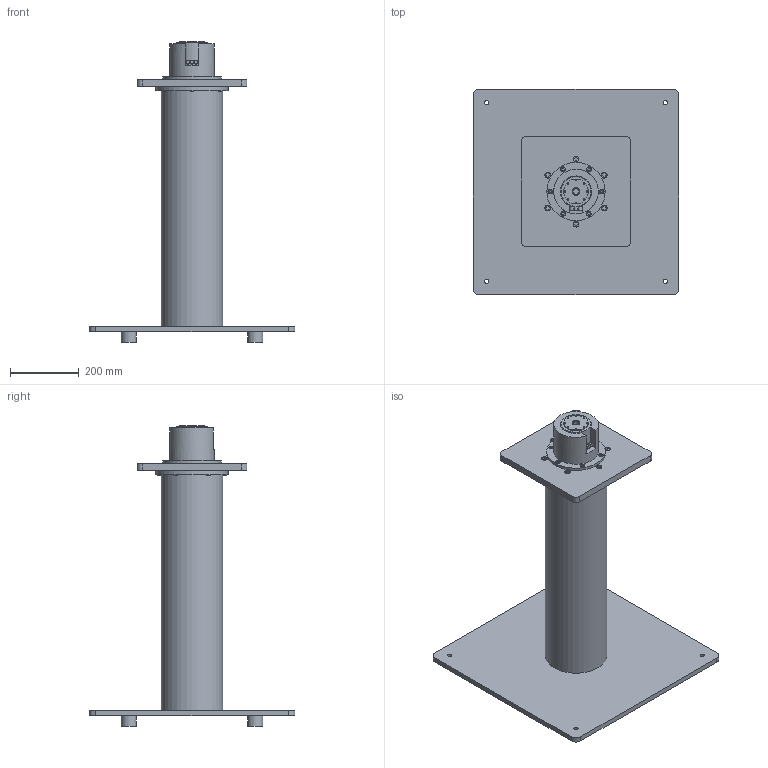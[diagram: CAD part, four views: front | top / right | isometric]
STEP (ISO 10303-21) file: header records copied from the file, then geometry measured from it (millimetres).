
FILE_DESCRIPTION(('Open CASCADE Model'),'2;1');
FILE_NAME('Open CASCADE Shape Model','2026-10-17T21:01:26',('Author'),( 'Open CASCADE'),'Open CASCADE STEP processor 7.9','Open CASCADE 7.9' ,'Unknown');
FILE_SCHEMA(('AUTOMOTIVE_DESIGN { 1 0 10303 214 1 1 1 1 }'));
Length unit declared in the file: millimetre
Products named in the file (16): ARM_BASE; pedestal_foot_plate; pedestal_column; pedestal_top_ring; leveling_foot_0; leveling_foot_1; leveling_foot_2; leveling_foot_3; base_plate; plate_to_pedestal_screws_M10; J1_housing_cup; cup_to_plate_screws_M8; J1_body_screws_M5; J1_actuator_body; J1_actuator_output_flange; J1_actuator_connectors
Assembly tree (15 placements, depth 2):
  ARM_BASE
    pedestal_foot_plate
    pedestal_column
    pedestal_top_ring
    leveling_foot_0
    leveling_foot_1
    leveling_foot_2
    leveling_foot_3
    base_plate
    plate_to_pedestal_screws_M10
    J1_housing_cup
    cup_to_plate_screws_M8
    J1_body_screws_M5
    J1_actuator_body
    J1_actuator_output_flange
    J1_actuator_connectors
Bounding box: 600 x 600 x 875 mm (x, y, z)
Volume: 10684748.7 mm3; surface area: 2006488 mm2
Topology: 34 solids, 34 shells, 419 faces, 834 edges, 556 vertices
Faces by surface type: plane 273, cylinder 146
Full cylindrical faces by diameter (mm): 4.2 x24, 5 x8, 5.5 x8, 6.8 x6, 8 x6, 8.5 x14, 9.1 x8, 10 x6, 11 x9, 12 x4, 13 x6, 13.6 x6, 16 x6, 16.6 x6, 18 x2, 22 x1, 30 x1, 44 x4, 72 x1, 87 x2, 90 x1, 90.6 x1, 100 x2, 130 x1, 170 x3, 180 x1, 210 x1
Entity records: 22542 total; most frequent: CARTESIAN_POINT 3789, DIRECTION 3612, LINE 1902, VECTOR 1902, ORIENTED_EDGE 1668, PCURVE 1668, DEFINITIONAL_REPRESENTATION 1668, EDGE_CURVE 834
